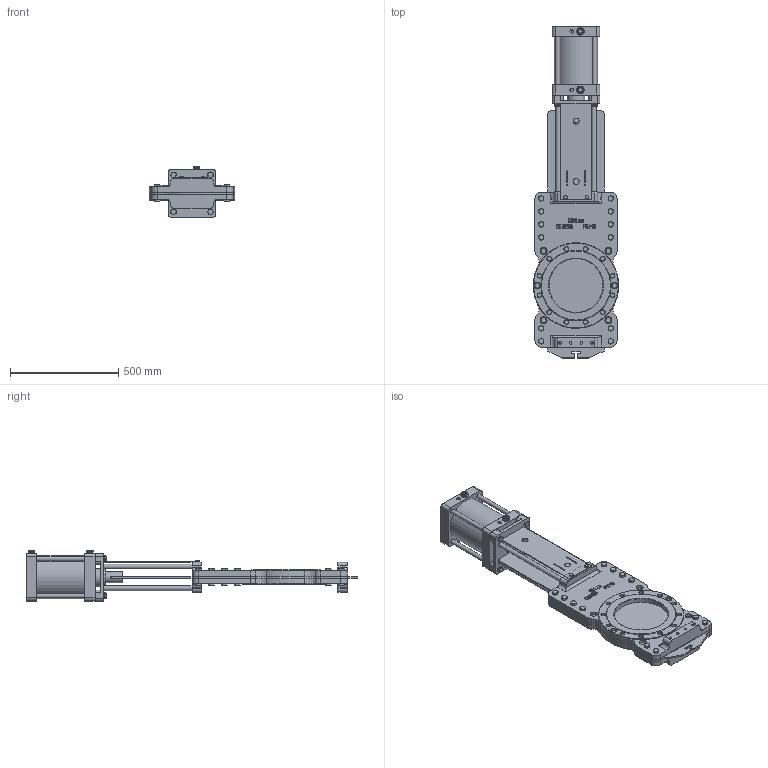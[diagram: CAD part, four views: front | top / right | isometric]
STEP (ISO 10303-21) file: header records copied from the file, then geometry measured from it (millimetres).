
FILE_DESCRIPTION(('STEP AP242'), '1');
FILE_NAME('GVKRT3431N-2W-Fb-2P Çàäâèæêà øèáåðíàÿ ñ âûäâèæíûì øòîêîì è ñêâîçíûì íîæîì DN.ru Äó250 Ðó10', '2026-05-27T18:26:12', ('DN.ru'), (''), 'C3D Converter', 'C3D Toolkit', '');
FILE_SCHEMA(('AP242_MANAGED_MODEL_BASED_3D_ENGINEERING_MIM_LF { 1 0 10303 442 1 1 4 }'));
Length unit declared in the file: millimetre
Products named in the file (1): GVKRT3431N-2W-Fb-2P
Bounding box: 395 x 1535 x 232.5 mm (x, y, z)
Volume: 30742139.9 mm3; surface area: 2846873.3 mm2
Topology: 1 solids, 3 shells, 1617 faces, 3900 edges, 2418 vertices
Faces by surface type: plane 858, cylinder 316, cone 292, extrusion 135, torus 16
Full cylindrical faces by diameter (mm): 10 x2, 12 x12, 16 x52, 16.339 x2, 19.05 x2, 20 x32, 22 x6, 24 x40, 27.951 x2, 30 x6, 32 x16, 35 x2, 50 x1, 80 x2, 115.43 x2, 200 x1, 250 x2, 395 x2
Entity records: 71923 total; most frequent: CARTESIAN_POINT 22384, ORIENTED_EDGE 7332, DIRECTION 7203, EDGE_CURVE 3666, AXIS2_PLACEMENT_3D 2711, VERTEX_POINT 2416, EDGE_LOOP 2160, FACE_BOUND 1809
